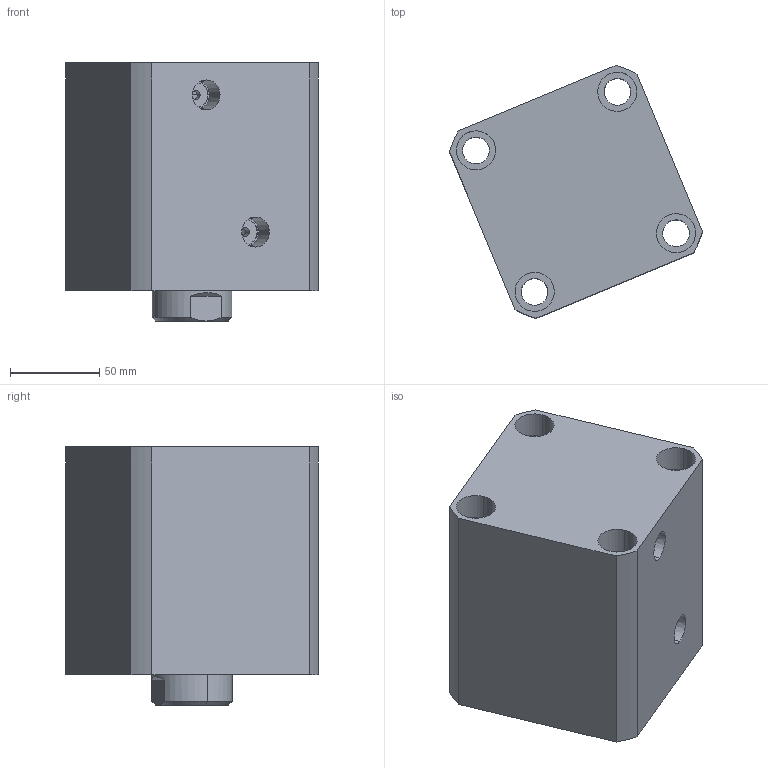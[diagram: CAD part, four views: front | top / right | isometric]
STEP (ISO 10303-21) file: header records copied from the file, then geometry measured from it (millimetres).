
FILE_DESCRIPTION (( 'STEP AP214' ), '1' );
FILE_NAME ('chtb-sd80x50n_asm.STEP', '2018-05-26T07:09:43', ( 'Windows' ), ( 'Microsoft' ), 'SwSTEP 2.0', 'SolidWorks 2015', '' );
FILE_SCHEMA (( 'AUTOMOTIVE_DESIGN' ));
Length unit declared in the file: millimetre
Products named in the file (4): CHTB-SD80X50NHSG; CHTB-SD80X50NBT; CHTB-SD80QG; chtb-sd80x50n_asm
Assembly tree (3 placements, depth 2):
  chtb-sd80x50n_asm
    CHTB-SD80QG
    CHTB-SD80X50NBT
    CHTB-SD80X50NHSG
Bounding box: 142.06 x 142.06 x 145 mm (x, y, z)
Volume: 1340312 mm3; surface area: 200668.2 mm2
Topology: 3 solids, 3 shells, 192 faces, 510 edges, 341 vertices
Faces by surface type: cylinder 103, plane 37, cone 20, torus 18, bspline 14
Entity records: 15144 total; most frequent: CARTESIAN_POINT 10435, ORIENTED_EDGE 1008, DIRECTION 889, EDGE_CURVE 504, AXIS2_PLACEMENT_3D 374, VERTEX_POINT 341, EDGE_LOOP 229, FACE_OUTER_BOUND 192
